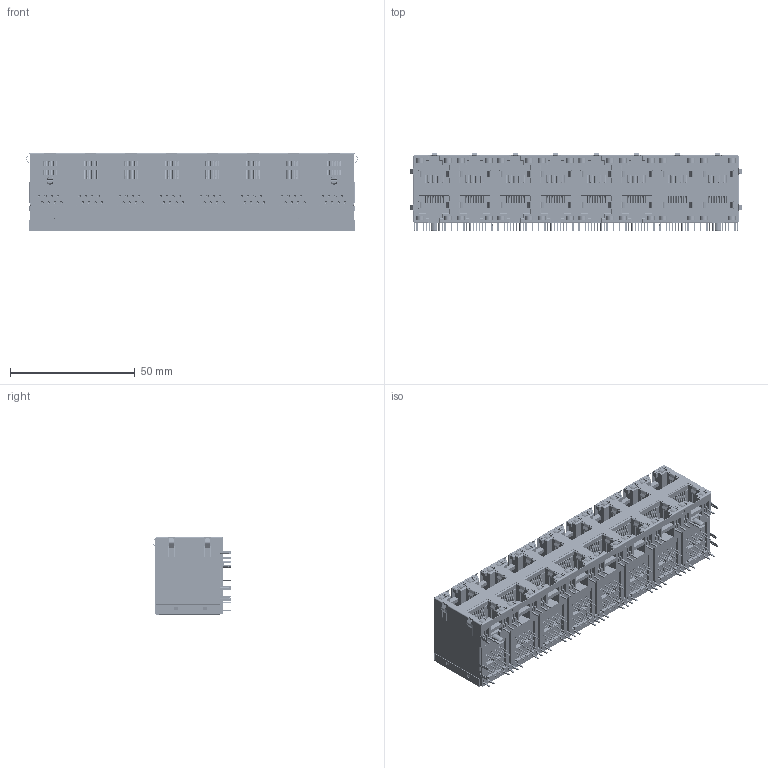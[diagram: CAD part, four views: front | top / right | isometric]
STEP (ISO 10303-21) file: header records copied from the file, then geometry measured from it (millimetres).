
FILE_DESCRIPTION((''),'2;1');
FILE_NAME('5921S_LED_2X8_8P8C0001_ASM','2023-03-18T08:54:36',('Administrator'),(''),'CREO PARAMETRIC BY PTC INC, 2019010','CREO PARAMETRIC BY PTC INC, 2019010','');
FILE_SCHEMA(('CONFIG_CONTROL_DESIGN'));
Products named in the file (1): 5921S_LED_2X8_8P8C0001_ASM
Bounding box: 133.24 x 31.63 x 31.29 mm (x, y, z)
Volume: 59153.2 mm3; surface area: 122701.3 mm2
Topology: 73 solids, 74 shells, 11954 faces, 34909 edges, 22186 vertices
Faces by surface type: plane 8167, cylinder 2711, torus 652, cone 388, extrusion 24, bspline 12
Entity records: 398772 total; most frequent: CARTESIAN_POINT 80485, ORIENTED_EDGE 69556, DIRECTION 63027, EDGE_CURVE 34909, VECTOR 26357, LINE 26333, VERTEX_POINT 22186, AXIS2_PLACEMENT_3D 18335
